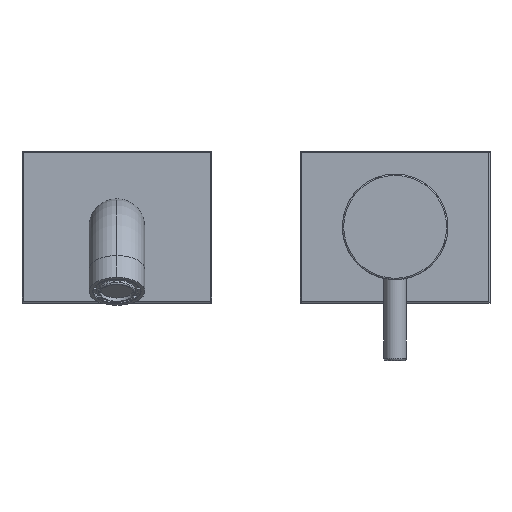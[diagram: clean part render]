
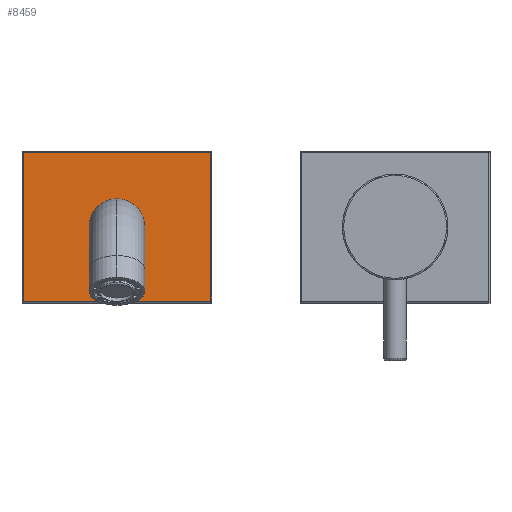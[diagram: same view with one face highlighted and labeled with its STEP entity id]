
A CAD part, top view. The second image highlights one B-rep face of the part: STEP entity #8459.
In plain terms, the highlighted planar face has unit normal (0, 0, 1).
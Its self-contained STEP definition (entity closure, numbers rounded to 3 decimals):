
#4114=CARTESIAN_POINT('',(-112.,0.,45.7));
#4115=DIRECTION('',(0.,0.,1.));
#4116=DIRECTION('',(0.,-1.,0.));
#4117=AXIS2_PLACEMENT_3D('',#4114,#4115,#4116);
#4178=DIRECTION('',(-1.,0.,0.));
#4179=VECTOR('',#4178,74.);
#4180=CARTESIAN_POINT('',(-75.,29.5,45.7));
#4181=LINE('',#4180,#4179);
#4182=DIRECTION('',(0.,1.,0.));
#4183=VECTOR('',#4182,59.);
#4184=CARTESIAN_POINT('',(-75.,-29.5,45.7));
#4185=LINE('',#4184,#4183);
#4186=DIRECTION('',(1.,0.,0.));
#4187=VECTOR('',#4186,74.);
#4188=CARTESIAN_POINT('',(-149.,-29.5,45.7));
#4189=LINE('',#4188,#4187);
#4190=DIRECTION('',(0.,-1.,0.));
#4191=VECTOR('',#4190,59.);
#4192=CARTESIAN_POINT('',(-149.,29.5,45.7));
#4193=LINE('',#4192,#4191);
#4406=CARTESIAN_POINT('',(-112.,0.,45.7));
#4407=DIRECTION('',(0.,0.,1.));
#4408=DIRECTION('',(0.,1.,0.));
#4409=AXIS2_PLACEMENT_3D('',#4406,#4407,#4408);
#6342=CARTESIAN_POINT('',(-75.,29.5,45.7));
#6343=CARTESIAN_POINT('',(-149.,29.5,45.7));
#6344=VERTEX_POINT('',#6342);
#6345=VERTEX_POINT('',#6343);
#6352=CARTESIAN_POINT('',(-149.,-29.5,45.7));
#6353=VERTEX_POINT('',#6352);
#6356=CARTESIAN_POINT('',(-75.,-29.5,45.7));
#6357=VERTEX_POINT('',#6356);
#6358=CARTESIAN_POINT('',(-112.,11.,45.7));
#6359=CARTESIAN_POINT('',(-112.,-11.,45.7));
#6360=VERTEX_POINT('',#6358);
#6361=VERTEX_POINT('',#6359);
#8439=CARTESIAN_POINT('',(-112.,0.,45.7));
#8440=DIRECTION('',(0.,0.,1.));
#8441=DIRECTION('',(0.,-1.,0.));
#8442=AXIS2_PLACEMENT_3D('',#8439,#8440,#8441);
#8443=PLANE('',#8442);
#8445=ORIENTED_EDGE('',*,*,#8444,.F.);
#8447=ORIENTED_EDGE('',*,*,#8446,.F.);
#8449=ORIENTED_EDGE('',*,*,#8448,.F.);
#8451=ORIENTED_EDGE('',*,*,#8450,.F.);
#8452=EDGE_LOOP('',(#8445,#8447,#8449,#8451));
#8453=FACE_OUTER_BOUND('',#8452,.F.);
#8455=ORIENTED_EDGE('',*,*,#8454,.T.);
#8456=ORIENTED_EDGE('',*,*,#8425,.T.);
#8457=EDGE_LOOP('',(#8455,#8456));
#8458=FACE_BOUND('',#8457,.F.);
#8459=ADVANCED_FACE('',(#8453,#8458),#8443,.T.);
#4118=CIRCLE('',#4117,11.);
#4410=CIRCLE('',#4409,11.);
#8425=EDGE_CURVE('',#6361,#6360,#4118,.T.);
#8444=EDGE_CURVE('',#6344,#6345,#4181,.T.);
#8446=EDGE_CURVE('',#6357,#6344,#4185,.T.);
#8448=EDGE_CURVE('',#6353,#6357,#4189,.T.);
#8450=EDGE_CURVE('',#6345,#6353,#4193,.T.);
#8454=EDGE_CURVE('',#6360,#6361,#4410,.T.);
